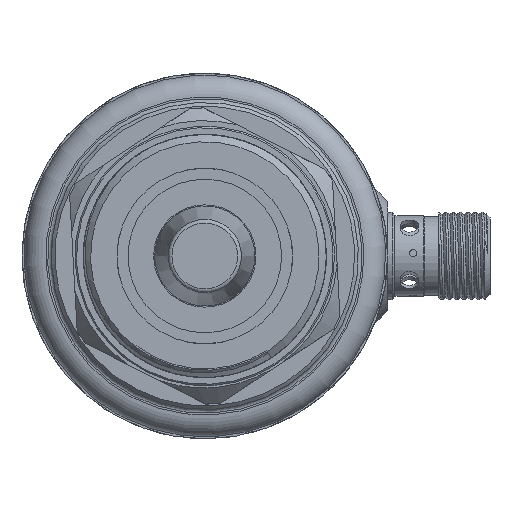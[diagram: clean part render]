
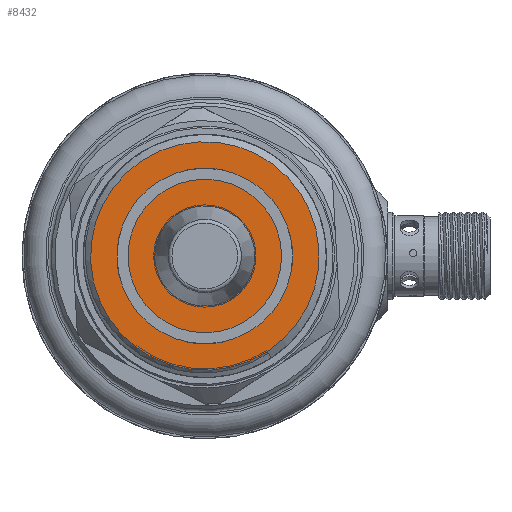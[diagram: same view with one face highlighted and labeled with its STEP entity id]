
A CAD part, front view. The second image highlights one B-rep face of the part: STEP entity #8432.
In plain terms, the highlighted planar face has unit normal (0, -1, 0) as drawn and (-1, 0, 0) by its records, which use the part's own axes.
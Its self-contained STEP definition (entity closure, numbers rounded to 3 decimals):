
#238 = CARTESIAN_POINT ( 'NONE',  ( 2.5, 0., -15.901 ) ) ;
#774 = EDGE_CURVE ( 'NONE', #12106, #12106, #12483, .T. ) ;
#1400 = DIRECTION ( 'NONE',  ( 0., 0., -1. ) ) ;
#2819 = CIRCLE ( 'NONE', #10598, 15.626 ) ;
#3551 = EDGE_LOOP ( 'NONE', ( #3629 ) ) ;
#3629 = ORIENTED_EDGE ( 'NONE', *, *, #6866, .T. ) ;
#3697 = FACE_OUTER_BOUND ( 'NONE', #3551, .T. ) ;
#3796 = DIRECTION ( 'NONE',  ( 0., 0., -1. ) ) ;
#4683 = PLANE ( 'NONE',  #7535 ) ;
#5866 = DIRECTION ( 'NONE',  ( 1., 0., 0. ) ) ;
#6035 = DIRECTION ( 'NONE',  ( -1., 0., 0. ) ) ;
#6470 = DIRECTION ( 'NONE',  ( 1., 0., 0. ) ) ;
#6813 = CARTESIAN_POINT ( 'NONE',  ( 2.5, 0., -7.125 ) ) ;
#6866 = EDGE_CURVE ( 'NONE', #7507, #7507, #2819, .T. ) ;
#7507 = VERTEX_POINT ( 'NONE', #238 ) ;
#7535 = AXIS2_PLACEMENT_3D ( 'NONE', #10106, #5866, #1400 ) ;
#7956 = FACE_BOUND ( 'NONE', #11607, .T. ) ;
#8239 = AXIS2_PLACEMENT_3D ( 'NONE', #8404, #6470, #8860 ) ;
#8404 = CARTESIAN_POINT ( 'NONE',  ( 2.5, 0., -0.275 ) ) ;
#8432 = ADVANCED_FACE ( 'NONE', ( #3697, #7956 ), #4683, .F. ) ;
#8860 = DIRECTION ( 'NONE',  ( 0., 0., -1. ) ) ;
#9653 = ORIENTED_EDGE ( 'NONE', *, *, #774, .T. ) ;
#10106 = CARTESIAN_POINT ( 'NONE',  ( 2.5, 0., -0.275 ) ) ;
#10598 = AXIS2_PLACEMENT_3D ( 'NONE', #13362, #6035, #3796 ) ;
#11607 = EDGE_LOOP ( 'NONE', ( #9653 ) ) ;
#12106 = VERTEX_POINT ( 'NONE', #6813 ) ;
#12483 = CIRCLE ( 'NONE', #8239, 6.85 ) ;
#13362 = CARTESIAN_POINT ( 'NONE',  ( 2.5, 0., -0.275 ) ) ;
